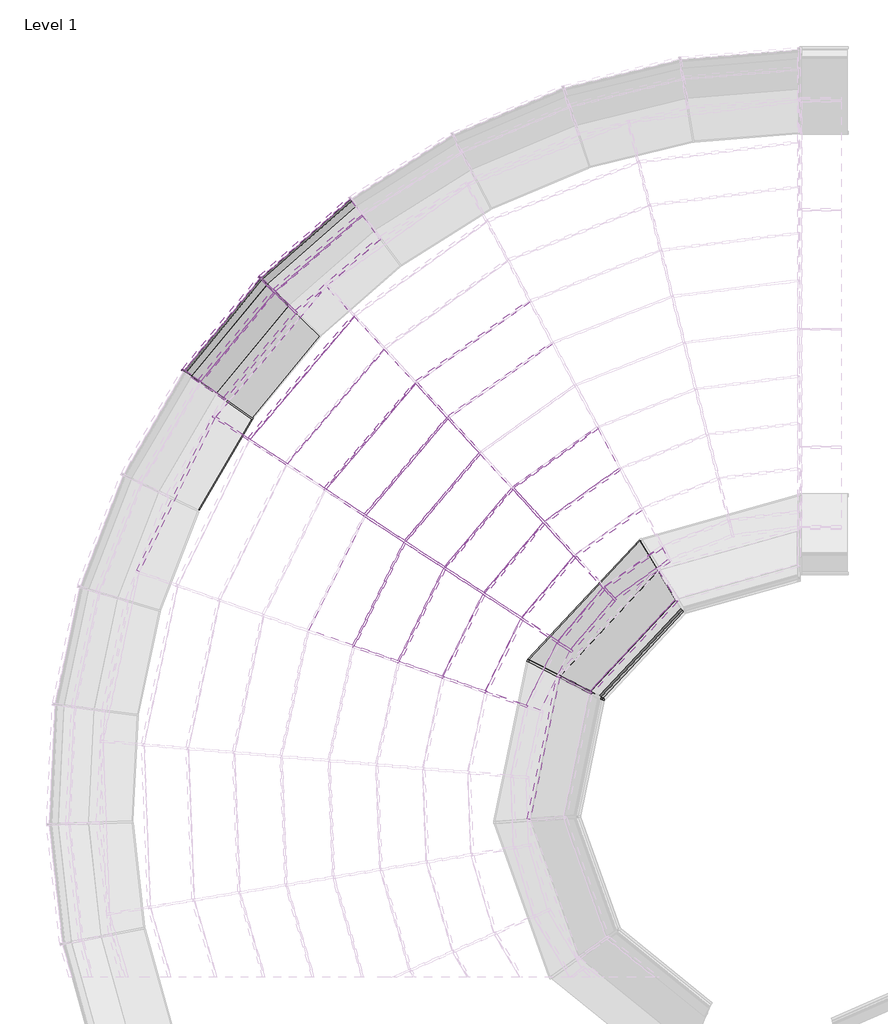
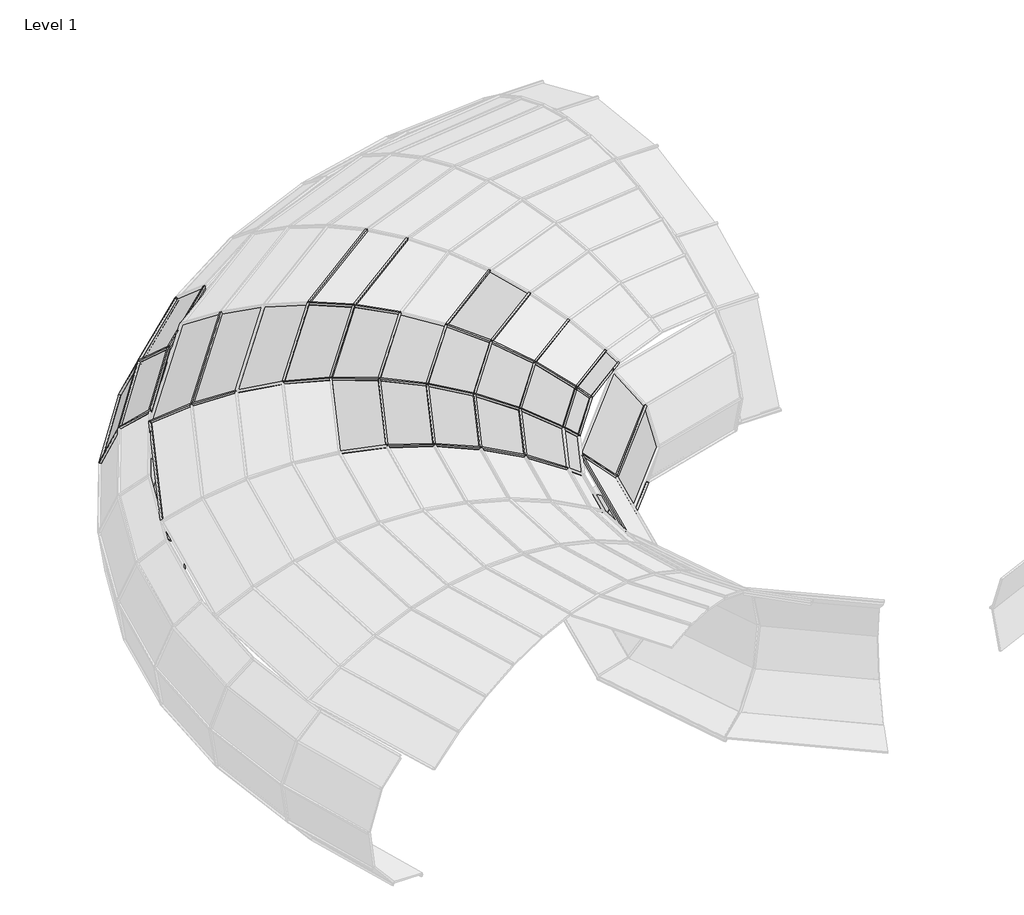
# One storey, part 14 of 23: 69 members, 30 plates.
"""IFC4 building model written with IfcOpenShell, lengths in millimetres."""

from ifc_helpers import new_model, si_unit, origin, place, context, project, spatial, transform, mapped, element, save
from components import member_6c4aaba8, member_c876edb5, member_782630c7, member_398e5ff5, member_0ea93e7c, member_01d9c279, member_398607d0, member_5ccaa950, member_8174f0e4, member_af15374c, member_9c203333, member_86c07ba8, member_0e8a41c0, member_f532ae18, member_ff5bcfe9, member_5080b2ef, member_18f2ae55, member_cb0bb3a9, member_172ab1ab, member_54499f2f, member_c8b9029b, member_d6b8231b, member_8c9da58c, member_391bee44, member_01ebdf2a, member_0cd36c09, member_d0a40a1c, member_ff9adfd2, member_e4cc2466, system_panel_glazed_dfe8d515, system_panel_glazed_f0cf6c0b, system_panel_glazed_2b57bb89, system_panel_glazed_39caee5c, system_panel_glazed_2fe36e08, system_panel_glazed_8ac96967, system_panel_glazed_5e26bc8e, system_panel_glazed_f7be4813, system_panel_glazed_5b1ce257, system_panel_glazed_7bf4cd1b, system_panel_glazed_9f229a92, system_panel_glazed_a07c5774, system_panel_glazed_4fd85c75, system_panel_glazed_1256fb3b, system_panel_glazed_de823024, system_panel_glazed_b0e446d2, system_panel_glazed_ac948568, system_panel_glazed_4c871569, system_panel_glazed_08c7efc5

model = new_model("IFC4")

# Units and contexts
model_context = context("Model", 3, world=origin())
ifc_project = project(units=[si_unit("LENGTHUNIT", "METRE", prefix="MILLI")], contexts=[model_context])

# Site, building, storey
site = spatial("IfcSite", under=ifc_project)
building = spatial("IfcBuilding", under=site)
storey = spatial("IfcBuildingStorey", under=building, Name="Level 1", Elevation=0.0)

# Members
placement = place(None, origin())
member_shape = member_6c4aaba8(model_context)
element("IfcMember", 1, ObjectType="Rectangular Mullion : 1\" Square", at=placement, inside=storey, context=model_context, shape_type="MappedRepresentation", body=[
    mapped(member_shape, transform((-16890.4368284, 3246.325838, 2378.3537392), x_axis=(0.690050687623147, -0.5864173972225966, 0.42419887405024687), y_axis=(-0.3232428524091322, 0.27469754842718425, 0.9055690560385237), z_axis=(-0.6475678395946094, -0.7620078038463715, 0.0))),
])
member_2_shape = member_c876edb5(model_context)
element("IfcMember", 2, ObjectType="Rectangular Mullion : 1\" Square", at=placement, inside=storey, context=model_context, shape_type="MappedRepresentation", body=[
    mapped(member_2_shape, transform((-13138.4925219, 2186.2335311, 2676.0506073), x_axis=(0.5585933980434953, -0.7843279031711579, -0.26982059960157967), y_axis=(0.15652543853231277, -0.2197793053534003, 0.962910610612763), z_axis=(-0.8145386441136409, -0.5801092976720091, 0.0))),
])
element("IfcMember", 3, ObjectType="Rectangular Mullion : 1\" Square", at=placement, inside=storey, context=model_context, shape_type="MappedRepresentation", body=[
    mapped(member_2_shape, transform((-13905.7304139, 1288.212641, 2676.0506073), x_axis=(0.7337453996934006, -0.6235499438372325, -0.2698205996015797), y_axis=(0.20560540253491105, -0.17472714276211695, 0.962910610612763), z_axis=(-0.6475678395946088, -0.762007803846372, 0.0))),
])
element("IfcMember", 4, ObjectType="Rectangular Mullion : 1\" Square", at=placement, inside=storey, context=model_context, shape_type="MappedRepresentation", body=[
    mapped(member_2_shape, transform((-14429.5431919, 229.5740456, 2676.0506073), x_axis=(0.8641636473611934, -0.42475644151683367, -0.2698205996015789), y_axis=(0.24215036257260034, -0.11902250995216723, 0.9629106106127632), z_axis=(-0.44111720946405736, -0.8974495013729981, 0.0))),
])
member_3_shape = member_782630c7(model_context)
element("IfcMember", 5, ObjectType="Rectangular Mullion : 1\" Square", at=placement, inside=storey, context=model_context, shape_type="MappedRepresentation", body=[
    mapped(member_3_shape, transform((-12749.1102639, 1762.0393058, 2475.91846), x_axis=(0.5361352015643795, -0.7527940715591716, -0.3819163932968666), y_axis=(0.22155325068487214, -0.3110856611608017, 0.924196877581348), z_axis=(-0.8145386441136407, -0.5801092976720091, 0.0))),
])
element("IfcMember", 6, ObjectType="Rectangular Mullion : 1\" Square", at=placement, inside=storey, context=model_context, shape_type="MappedRepresentation", body=[
    mapped(member_3_shape, transform((-13424.2797031, 972.357458, 2475.91846), x_axis=(0.7042452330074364, -0.5984801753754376, -0.3819163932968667), y_axis=(0.2910232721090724, -0.24731677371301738, 0.9241968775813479), z_axis=(-0.64756783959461, -0.7620078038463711, 0.0))),
])
element("IfcMember", 7, ObjectType="Rectangular Mullion : 1\" Square", at=placement, inside=storey, context=model_context, shape_type="MappedRepresentation", body=[
    mapped(member_3_shape, transform((-13885.3763044, 41.3144319, 2475.91846), x_axis=(0.829420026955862, -0.40767914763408, -0.38191639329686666), y_axis=(0.3427506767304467, -0.1684698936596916, 0.9241968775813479), z_axis=(-0.44111720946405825, -0.8974495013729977, 0.0))),
])
member_4_shape = member_398e5ff5(model_context)
element("IfcMember", 8, ObjectType="Rectangular Mullion : 1\" Square", at=placement, inside=storey, context=model_context, shape_type="MappedRepresentation", body=[
    mapped(member_4_shape, transform((-12378.6110611, 1358.4163388, 2208.6526723), x_axis=(0.5060932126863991, -0.7106117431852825, -0.4887746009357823), y_axis=(0.283542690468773, -0.39812580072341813, 0.8724101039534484), z_axis=(-0.8145386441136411, -0.5801092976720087, 0.0))),
])
element("IfcMember", 9, ObjectType="Rectangular Mullion : 1\" Square", at=placement, inside=storey, context=model_context, shape_type="MappedRepresentation", body=[
    mapped(member_4_shape, transform((-12966.1768982, 671.8196418, 2208.6526723), x_axis=(0.664783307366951, -0.5649447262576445, -0.4887746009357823), y_axis=(0.3724500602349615, -0.31651471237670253, 0.8724101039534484), z_axis=(-0.6475678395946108, -0.7620078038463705, 0.0))),
])
member_5_shape = member_0ea93e7c(model_context)
element("IfcMember", 10, ObjectType="Rectangular Mullion : 1\" Square", at=placement, inside=storey, context=model_context, shape_type="MappedRepresentation", body=[
    mapped(member_5_shape, transform((-14771.7057363, 3965.4610123, 2763.3769688), x_axis=(0.5684549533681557, -0.7981746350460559, 0.1994397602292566), y_axis=(-0.11569685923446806, 0.16245139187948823, 0.97991008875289), z_axis=(-0.8145386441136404, -0.5801092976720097, 0.0))),
])
element("IfcMember", 11, ObjectType="Rectangular Mullion : 1\" Square", at=placement, inside=storey, context=model_context, shape_type="MappedRepresentation", body=[
    mapped(member_5_shape, transform((-15925.1127737, 2613.0261065, 2763.3769688), x_axis=(0.7466991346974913, -0.634558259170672, 0.19943976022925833), y_axis=(-0.15197465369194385, 0.129150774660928, 0.9799100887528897), z_axis=(-0.6475678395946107, -0.7620078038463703, 0.0))),
])
member_6_shape = member_01d9c279(model_context)
element("IfcMember", 12, ObjectType="Rectangular Mullion : 1\" Square", at=placement, inside=storey, context=model_context, shape_type="MappedRepresentation", body=[
    mapped(member_6_shape, transform((-14363.675233, 3520.9513315, 2850.17796), x_axis=(0.5781463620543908, -0.8117824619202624, 0.08219500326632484), y_axis=(-0.04768208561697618, 0.06695100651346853, 0.9966162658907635), z_axis=(-0.8145386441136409, -0.5801092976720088, 0.0))),
])
element("IfcMember", 13, ObjectType="Rectangular Mullion : 1\" Square", at=placement, inside=storey, context=model_context, shape_type="MappedRepresentation", body=[
    mapped(member_6_shape, transform((-15420.604487, 2282.0440275, 2850.17796), x_axis=(0.7594293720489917, -0.6453766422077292, 0.08219500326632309), y_axis=(-0.06263323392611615, 0.053226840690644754, 0.9966162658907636), z_axis=(-0.64756783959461, -0.762007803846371, 0.0))),
])
member_7_shape = member_398607d0(model_context)
element("IfcMember", 14, ObjectType="Rectangular Mullion : 1\" Square", at=placement, inside=storey, context=model_context, shape_type="MappedRepresentation", body=[
    mapped(member_7_shape, transform((-14911.0437587, 1947.7473001, 2864.5209769), x_axis=(0.7615092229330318, -0.6471441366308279, -0.03616863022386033), y_axis=(0.027560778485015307, -0.02342164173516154, 0.9993457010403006), z_axis=(-0.6475678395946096, -0.7620078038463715, 0.0))),
])
element("IfcMember", 15, ObjectType="Rectangular Mullion : 1\" Square", at=placement, inside=storey, context=model_context, shape_type="MappedRepresentation", body=[
    mapped(member_7_shape, transform((-15565.8136791, 622.6774261, 2864.5209769), x_axis=(0.8968623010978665, -0.44082858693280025, -0.03616863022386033), y_axis=(0.0324595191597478, -0.015954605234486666, 0.9993457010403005), z_axis=(-0.44111720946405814, -0.8974495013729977, 0.0))),
])
member_8_shape = member_5ccaa950(model_context)
element("IfcMember", 16, ObjectType="Rectangular Mullion : 1\" Square", at=placement, inside=storey, context=model_context, shape_type="MappedRepresentation", body=[
    mapped(member_8_shape, transform((-13541.21836, 2624.9642934, 2806.2019711), x_axis=(0.5731852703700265, -0.8048165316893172, -0.15404218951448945), y_axis=(0.089361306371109, -0.12547331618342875, 0.9880642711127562), z_axis=(-0.8145386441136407, -0.580109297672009, 0.0))),
])
element("IfcMember", 17, ObjectType="Rectangular Mullion : 1\" Square", at=placement, inside=storey, context=model_context, shape_type="MappedRepresentation", body=[
    mapped(member_8_shape, transform((-14403.6797608, 1614.891735, 2806.2019711), x_axis=(0.7529126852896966, -0.639838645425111, -0.15404218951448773), y_axis=(0.11738135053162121, -0.09975276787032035, 0.9880642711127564), z_axis=(-0.6475678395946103, -0.7620078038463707, 0.0))),
])
element("IfcMember", 18, ObjectType="Rectangular Mullion : 1\" Square", at=placement, inside=storey, context=model_context, shape_type="MappedRepresentation", body=[
    mapped(member_8_shape, transform((-14992.3579102, 424.2850505, 2806.2019711), x_axis=(0.8867377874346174, -0.4358521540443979, -0.1540421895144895), y_axis=(0.13824508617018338, -0.06795066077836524, 0.9880642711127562), z_axis=(-0.44111720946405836, -0.8974495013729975, 0.0))),
])
member_9_shape = member_8174f0e4(model_context)
element("IfcMember", 19, ObjectType="Rectangular Mullion : 1\" Square", at=placement, inside=storey, context=model_context, shape_type="MappedRepresentation", body=[
    mapped(member_9_shape, transform((-12238.8698585, 1206.1818444, 2085.6089632), x_axis=(0.49743525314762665, -0.6984549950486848, -0.5145082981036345), y_axis=(0.29847104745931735, -0.41908689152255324, 0.857485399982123), z_axis=(-0.8145386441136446, -0.5801092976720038, 0.0))),
])
element("IfcMember", 20, ObjectType="Rectangular Mullion : 1\" Square", at=placement, inside=storey, context=model_context, shape_type="MappedRepresentation", body=[
    mapped(member_9_shape, transform((-12793.3942407, 558.4657789, 2085.6089632), x_axis=(0.653410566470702, -0.5552799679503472, -0.514508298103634), y_axis=(0.39205933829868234, -0.3331790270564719, 0.8574853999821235), z_axis=(-0.6475678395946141, -0.7620078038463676, 0.0))),
])
member_10_shape = member_af15374c(model_context)
element("IfcMember", 21, ObjectType="Rectangular Mullion : 1\" Square", at=placement, inside=storey, context=model_context, shape_type="MappedRepresentation", body=[
    mapped(member_10_shape, transform((-17351.3458913, 3518.5588606, 2085.6089632), x_axis=(-0.7857928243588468, 0.3862353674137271, -0.4830650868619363), y_axis=(-0.43352652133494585, 0.21308832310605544, 0.875584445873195), z_axis=(0.4411172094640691, 0.8974495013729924, 0.0))),
])
member_11_shape = member_9c203333(model_context)
element("IfcMember", 22, ObjectType="Rectangular Mullion : 1\" Square", at=placement, inside=storey, context=model_context, shape_type="MappedRepresentation", body=[
    mapped(member_11_shape, transform((-16854.170886, 3485.1991614, 0.0), x_axis=(0.8282658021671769, -0.48470889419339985, -0.2811281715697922), y_axis=(-0.24263423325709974, 0.1419918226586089, -0.9596702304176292), z_axis=(0.5050785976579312, 0.8630733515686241, 0.0))),
])
member_12_shape = member_86c07ba8(model_context)
element("IfcMember", 23, ObjectType="Rectangular Mullion : 1\" Square", at=placement, inside=storey, context=model_context, shape_type="MappedRepresentation", body=[
    mapped(member_12_shape, transform((-16397.1314043, 4956.0285349, 170.8694653), x_axis=(-0.5571284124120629, 0.634044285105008, 0.5362795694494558), y_axis=(-0.35398374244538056, 0.40285392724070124, -0.8440404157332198), z_axis=(-0.7512013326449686, -0.6600731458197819, 0.0))),
])
element("IfcMember", 24, ObjectType="Rectangular Mullion : 1\" Square", at=placement, inside=storey, context=model_context, shape_type="MappedRepresentation", body=[
    mapped(member_12_shape, transform((-17319.4457462, 3840.9745394, 170.8694653), x_axis=(-0.6511365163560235, 0.5370525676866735, 0.5362795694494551), y_axis=(-0.41371385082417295, 0.34122811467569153, -0.8440404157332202), z_axis=(-0.6362877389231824, -0.7714518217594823, 0.0))),
])
member_13_shape = member_0e8a41c0(model_context)
element("IfcMember", 25, ObjectType="Rectangular Mullion : 1\" Square", at=placement, inside=storey, context=model_context, shape_type="MappedRepresentation", body=[
    mapped(member_13_shape, transform((-16685.2660922, 5235.2997594, 629.7792003), x_axis=(-0.2787345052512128, 0.31721595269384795, 0.9064662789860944), y_axis=(-0.598334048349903, 0.6809386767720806, -0.4222782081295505), z_axis=(-0.7512013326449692, -0.6600731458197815, 0.0))),
])
element("IfcMember", 26, ObjectType="Rectangular Mullion : 1\" Square", at=placement, inside=storey, context=model_context, shape_type="MappedRepresentation", body=[
    mapped(member_13_shape, transform((-17648.4399386, 4070.7066366, 629.7792003), x_axis=(-0.32576729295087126, 0.2686904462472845, 0.9064662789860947), y_axis=(-0.6992950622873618, 0.5767733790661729, -0.4222782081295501), z_axis=(-0.6362877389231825, -0.7714518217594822, 0.0))),
])
member_14_shape = member_f532ae18(model_context)
element("IfcMember", 27, ObjectType="Rectangular Mullion : 1\" Square", at=placement, inside=storey, context=model_context, shape_type="MappedRepresentation", body=[
    mapped(member_14_shape, transform((-16750.7991511, 5298.8169213, 1232.5089476), x_axis=(0.08842369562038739, -0.10063126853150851, 0.9909866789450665), y_axis=(-0.6541236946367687, 0.7444305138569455, 0.1339604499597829), z_axis=(-0.7512013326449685, -0.6600731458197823, 0.0))),
])
element("IfcMember", 28, ObjectType="Rectangular Mullion : 1\" Square", at=placement, inside=storey, context=model_context, shape_type="MappedRepresentation", body=[
    mapped(member_14_shape, transform((-17723.2660415, 4122.9566701, 1232.5089476), x_axis=(0.10334403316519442, -0.08523739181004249, 0.9909866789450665), y_axis=(-0.7644984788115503, 0.6305526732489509, 0.13396044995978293), z_axis=(-0.6362877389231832, -0.7714518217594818, 0.0))),
])
member_15_shape = member_ff5bcfe9(model_context)
element("IfcMember", 29, ObjectType="Rectangular Mullion : 1\" Square", at=placement, inside=storey, context=model_context, shape_type="MappedRepresentation", body=[
    mapped(member_15_shape, transform((-16573.1356931, 5126.6186628, 1789.6405438), x_axis=(0.4273307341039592, -0.48632703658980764, 0.762151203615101), y_axis=(-0.5030755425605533, 0.5725289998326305, 0.6473990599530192), z_axis=(-0.7512013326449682, -0.6600731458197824, 0.0))),
])
element("IfcMember", 30, ObjectType="Rectangular Mullion : 1\" Square", at=placement, inside=storey, context=model_context, shape_type="MappedRepresentation", body=[
    mapped(member_15_shape, transform((-17520.4086683, 3981.3041702, 1789.6405438), x_axis=(0.4994371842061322, -0.4119320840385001, 0.7621512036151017), y_axis=(-0.5879629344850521, 0.4849474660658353, 0.6473990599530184), z_axis=(-0.6362877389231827, -0.771451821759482, 0.0))),
])
member_16_shape = member_5080b2ef(model_context)
element("IfcMember", 31, ObjectType="Rectangular Mullion : 1\" Square", at=placement, inside=storey, context=model_context, shape_type="MappedRepresentation", body=[
    mapped(member_16_shape, transform((-16286.699342, 4848.9935317, 2085.6089632), x_axis=(0.5294916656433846, -0.6025920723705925, 0.5970941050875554), y_axis=(-0.394125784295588, 0.4485378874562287, 0.8021711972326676), z_axis=(-0.751201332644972, -0.6600731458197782, 0.0))),
])
element("IfcMember", 32, ObjectType="Rectangular Mullion : 1\" Square", at=placement, inside=storey, context=model_context, shape_type="MappedRepresentation", body=[
    mapped(member_16_shape, transform((-17193.3536487, 3752.9261705, 2085.6089632), x_axis=(0.6188364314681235, -0.5104116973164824, 0.5970941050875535), y_axis=(-0.4606293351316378, 0.3799236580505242, 0.8021711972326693), z_axis=(-0.6362877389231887, -0.7714518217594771, 0.0))),
])
member_17_shape = member_18f2ae55(model_context)
element("IfcMember", 33, ObjectType="Rectangular Mullion : 1\" Square", at=placement, inside=storey, context=model_context, shape_type="MappedRepresentation", body=[
    mapped(member_17_shape, transform((-12556.6843912, 33.2902731, 1696.6281859), x_axis=(0.4190608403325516, -0.39066910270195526, -0.8196131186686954), y_axis=(0.5995066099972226, -0.558889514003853, 0.5729173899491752), z_axis=(-0.6818943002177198, -0.7314507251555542, 0.0))),
])
member_18_shape = member_cb0bb3a9(model_context)
element("IfcMember", 34, ObjectType="Rectangular Mullion : 1\" Square", at=placement, inside=storey, context=model_context, shape_type="MappedRepresentation", body=[
    mapped(member_18_shape, transform((-12927.3046486, 224.7657121, 113.4427618), x_axis=(-0.658929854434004, 0.6142867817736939, -0.43412348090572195), y_axis=(0.3175399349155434, -0.29602632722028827, -0.9008533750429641), z_axis=(-0.6818943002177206, -0.7314507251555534, 0.0))),
])
member_19_shape = member_172ab1ab(model_context)
element("IfcMember", 35, ObjectType="Rectangular Mullion : 1\" Square", at=placement, inside=storey, context=model_context, shape_type="MappedRepresentation", body=[
    mapped(member_19_shape, transform((-13356.9351081, 446.7278935, 0.0), x_axis=(-0.7106614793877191, 0.6625135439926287, -0.23671938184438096), y_axis=(0.17314856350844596, -0.1614175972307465, -0.9715780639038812), z_axis=(-0.6818943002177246, -0.7314507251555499, 0.0))),
])
member_20_shape = member_54499f2f(model_context)
element("IfcMember", 36, ObjectType="Rectangular Mullion : 1\" Square", at=placement, inside=storey, context=model_context, shape_type="MappedRepresentation", body=[
    mapped(member_20_shape, transform((-12529.1689958, 19.0748536, 526.7119632), x_axis=(-0.3863430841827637, 0.3601680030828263, -0.8491278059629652), y_axis=(0.6210951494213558, -0.579015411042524, -0.5281874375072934), z_axis=(-0.6818943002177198, -0.7314507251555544, 0.0))),
])
member_21_shape = member_c8b9029b(model_context)
element("IfcMember", 37, ObjectType="Rectangular Mullion : 1\" Square", at=placement, inside=storey, context=model_context, shape_type="MappedRepresentation", body=[
    mapped(member_21_shape, transform((-12984.9135257, 227.0014528, 2085.6089632), x_axis=(-0.742293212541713, 0.15308770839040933, 0.6523533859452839), y_axis=(0.6389074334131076, -0.13176582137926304, 0.7579149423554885), z_axis=(0.20198534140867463, 0.9793885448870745, 0.0))),
])
member_22_shape = member_d6b8231b(model_context)
element("IfcMember", 38, ObjectType="Rectangular Mullion : 1\" Square", at=placement, inside=storey, context=model_context, shape_type="MappedRepresentation", body=[
    mapped(member_22_shape, transform((-16847.7563878, 3496.1601929, 0.0), x_axis=(-0.5725189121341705, -0.8198915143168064, 0.0), y_axis=(-0.2298136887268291, 0.16047572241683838, -0.9599131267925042), z_axis=(0.7870246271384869, -0.5495684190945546, -0.28029767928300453))),
])
member_23_shape = member_8c9da58c(model_context)
element("IfcMember", 39, ObjectType="Rectangular Mullion : 1\" Square", at=placement, inside=storey, context=model_context, shape_type="MappedRepresentation", body=[
    mapped(member_23_shape, transform((-16406.6716612, 4947.645606, 170.8694653), x_axis=(-0.6959761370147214, -0.7180649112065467, 0.0), y_axis=(-0.540562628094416, 0.5239340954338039, -0.6582439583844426), z_axis=(0.47266188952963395, -0.45812208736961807, -0.7528046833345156))),
])
element("IfcMember", 40, ObjectType="Rectangular Mullion : 1\" Square", at=placement, inside=storey, context=model_context, shape_type="MappedRepresentation", body=[
    mapped(member_23_shape, transform((-16694.8063491, 5226.9168304, 629.7792003), x_axis=(-0.6959761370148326, -0.7180649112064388, 0.0), y_axis=(-0.7099722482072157, 0.688132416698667, -0.1497103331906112), z_axis=(0.10750173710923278, -0.10419481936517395, -0.9887299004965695))),
])
element("IfcMember", 41, ObjectType="Rectangular Mullion : 1\" Square", at=placement, inside=storey, context=model_context, shape_type="MappedRepresentation", body=[
    mapped(member_23_shape, transform((-17327.5266005, 3831.1771012, 170.8694653), x_axis=(-0.572518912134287, -0.8198915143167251, 0.0), y_axis=(-0.617218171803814, 0.4309949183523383, -0.6582439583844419), z_axis=(0.5396886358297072, -0.37685711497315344, -0.7528046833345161))),
])
element("IfcMember", 42, ObjectType="Rectangular Mullion : 1\" Square", at=placement, inside=storey, context=model_context, shape_type="MappedRepresentation", body=[
    mapped(member_23_shape, transform((-17656.5207929, 4060.9091985, 629.7792003), x_axis=(-0.5725189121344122, -0.8198915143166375, 0.0), y_axis=(-0.8106512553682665, 0.566066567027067, -0.1497103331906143), z_axis=(0.12274623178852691, -0.08571199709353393, -0.9887299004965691))),
])
member_24_shape = member_391bee44(model_context)
element("IfcMember", 43, ObjectType="Rectangular Mullion : 1\" Square", at=placement, inside=storey, context=model_context, shape_type="MappedRepresentation", body=[
    mapped(member_24_shape, transform((-16760.339408, 5290.4339923, 1232.5089476), x_axis=(-0.6959761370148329, -0.7180649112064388, 0.0), y_axis=(-0.6562609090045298, 0.6360733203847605, 0.40587233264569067), z_axis=(-0.2914426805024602, 0.2824774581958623, -0.9139297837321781))),
])
element("IfcMember", 44, ObjectType="Rectangular Mullion : 1\" Square", at=placement, inside=storey, context=model_context, shape_type="MappedRepresentation", body=[
    mapped(member_24_shape, transform((-17731.3468958, 4113.1592319, 1232.5089476), x_axis=(-0.5725189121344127, -0.8198915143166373, 0.0), y_axis=(-0.749323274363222, 0.5232420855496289, 0.4058723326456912), z_axis=(-0.3327712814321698, 0.23236958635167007, -0.9139297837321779))),
])
member_25_shape = member_01ebdf2a(model_context)
element("IfcMember", 45, ObjectType="Rectangular Mullion : 1\" Square", at=placement, inside=storey, context=model_context, shape_type="MappedRepresentation", body=[
    mapped(member_25_shape, transform((-16582.67595, 5118.2357338, 1789.6405438), x_axis=(-0.6959761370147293, -0.718064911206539, 0.0), y_axis=(-0.4278661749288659, 0.4147043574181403, 0.8030883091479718), z_axis=(-0.5766695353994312, 0.5589302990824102, -0.5958600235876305))),
])
element("IfcMember", 46, ObjectType="Rectangular Mullion : 1\" Square", at=placement, inside=storey, context=model_context, shape_type="MappedRepresentation", body=[
    mapped(member_25_shape, transform((-17528.4895226, 3971.5067321, 1789.6405438), x_axis=(-0.572518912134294, -0.8198915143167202, 0.0), y_axis=(-0.48854057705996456, 0.3411411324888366, 0.8030883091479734), z_axis=(-0.6584452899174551, 0.45978324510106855, -0.5958600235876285))),
])
member_26_shape = member_0cd36c09(model_context)
element("IfcMember", 47, ObjectType="Rectangular Mullion : 1\" Square", at=placement, inside=storey, context=model_context, shape_type="MappedRepresentation", body=[
    mapped(member_26_shape, transform((-14782.0503771, 3958.0936242, 2763.3769688), x_axis=(-0.7366889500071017, -0.6762317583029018, 0.0), y_axis=(-0.09628869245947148, 0.10489719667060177, 0.9898106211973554), z_axis=(-0.6693413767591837, 0.7291825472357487, -0.1423900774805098))),
])
element("IfcMember", 48, ObjectType="Rectangular Mullion : 1\" Square", at=placement, inside=storey, context=model_context, shape_type="MappedRepresentation", body=[
    mapped(member_26_shape, transform((-14374.0198738, 3513.5839434, 2850.17796), x_axis=(-0.7366889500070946, -0.6762317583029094, 0.0), y_axis=(-0.01591076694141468, 0.01733323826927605, 0.9997231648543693), z_axis=(-0.6760445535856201, 0.7364850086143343, -0.023528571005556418))),
])
element("IfcMember", 49, ObjectType="Rectangular Mullion : 1\" Square", at=placement, inside=storey, context=model_context, shape_type="MappedRepresentation", body=[
    mapped(member_26_shape, transform((-16898.66094, 3236.6483389, 2378.3537392), x_axis=(-0.5485388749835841, -0.8361250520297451, 0.0), y_axis=(-0.3113511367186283, 0.20426155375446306, 0.9280828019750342), z_axis=(-0.7759932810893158, 0.509089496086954, -0.37237388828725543))),
])
element("IfcMember", 50, ObjectType="Rectangular Mullion : 1\" Square", at=placement, inside=storey, context=model_context, shape_type="MappedRepresentation", body=[
    mapped(member_26_shape, transform((-15933.3368853, 2603.3486074, 2763.3769688), x_axis=(-0.5485388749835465, -0.8361250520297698, 0.0), y_axis=(-0.11905591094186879, 0.07810649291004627, 0.9898106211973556), z_axis=(-0.8276054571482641, 0.5429496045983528, -0.1423900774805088))),
])
element("IfcMember", 51, ObjectType="Rectangular Mullion : 1\" Square", at=placement, inside=storey, context=model_context, shape_type="MappedRepresentation", body=[
    mapped(member_26_shape, transform((-15428.8285986, 2272.3665284, 2850.17796), x_axis=(-0.5485388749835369, -0.8361250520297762, 0.0), y_axis=(-0.019672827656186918, 0.012906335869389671, 0.9997231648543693), z_axis=(-0.8358935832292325, 0.548387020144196, -0.023528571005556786))),
])
element("IfcMember", 52, ObjectType="Rectangular Mullion : 1\" Square", at=placement, inside=storey, context=model_context, shape_type="MappedRepresentation", body=[
    mapped(member_26_shape, transform((-13551.5630008, 2617.5969053, 2806.2019711), x_axis=(-0.7366889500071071, -0.6762317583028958, 0.0), y_axis=(0.14437743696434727, -0.15728522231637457, 0.9769424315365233), z_axis=(-0.6606394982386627, 0.7197026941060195, 0.2135028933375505))),
])
element("IfcMember", 53, ObjectType="Rectangular Mullion : 1\" Square", at=placement, inside=storey, context=model_context, shape_type="MappedRepresentation", body=[
    mapped(member_26_shape, transform((-13148.8371627, 2178.866143, 2676.0506073), x_axis=(-0.7366889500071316, -0.676231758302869, 0.0), y_axis=(0.22200740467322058, -0.24185554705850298, 0.9445732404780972), z_axis=(-0.6387504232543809, 0.6958566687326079, 0.3283007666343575))),
])
element("IfcMember", 54, ObjectType="Rectangular Mullion : 1\" Square", at=placement, inside=storey, context=model_context, shape_type="MappedRepresentation", body=[
    mapped(member_26_shape, transform((-14919.2678703, 1938.069801, 2864.5209769), x_axis=(-0.5485388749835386, -0.8361250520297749, 0.0), y_axis=(0.07999012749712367, -0.05247743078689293, 0.9954133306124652), z_axis=(-0.83229002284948, 0.5460229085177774, 0.09566766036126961))),
])
element("IfcMember", 55, ObjectType="Rectangular Mullion : 1\" Square", at=placement, inside=storey, context=model_context, shape_type="MappedRepresentation", body=[
    mapped(member_26_shape, transform((-14411.9038723, 1605.2142359, 2806.2019711), x_axis=(-0.5485388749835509, -0.8361250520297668, 0.0), y_axis=(0.17851511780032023, -0.11711463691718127, 0.9769424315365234), z_axis=(-0.8168460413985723, 0.5358909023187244, 0.21350289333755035))),
])
element("IfcMember", 56, ObjectType="Rectangular Mullion : 1\" Square", at=placement, inside=storey, context=model_context, shape_type="MappedRepresentation", body=[
    mapped(member_26_shape, transform((-13913.9545255, 1278.5351419, 2676.0506073), x_axis=(-0.5485388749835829, -0.8361250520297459, 0.0), y_axis=(0.2745004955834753, -0.18008573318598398, 0.9445732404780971), z_axis=(-0.7897813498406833, 0.518135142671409, 0.32830076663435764))),
])
element("IfcMember", 57, ObjectType="Rectangular Mullion : 1\" Square", at=placement, inside=storey, context=model_context, shape_type="MappedRepresentation", body=[
    mapped(member_26_shape, transform((-15571.4158676, 611.2798175, 2864.5209769), x_axis=(-0.32694640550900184, -0.9450428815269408, 0.0), y_axis=(0.09041004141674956, -0.03127819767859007, 0.9954133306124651), z_axis=(-0.9407082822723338, 0.3254468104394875, 0.09566766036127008))),
])
element("IfcMember", 58, ObjectType="Rectangular Mullion : 1\" Square", at=placement, inside=storey, context=model_context, shape_type="MappedRepresentation", body=[
    mapped(member_26_shape, transform((-14997.9600987, 412.8874418, 2806.2019711), x_axis=(-0.32694640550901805, -0.9450428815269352, 0.0), y_axis=(0.20176938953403, -0.06980400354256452, 0.9769424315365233), z_axis=(-0.9232524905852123, 0.31940781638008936, 0.21350289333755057))),
])
element("IfcMember", 59, ObjectType="Rectangular Mullion : 1\" Square", at=placement, inside=storey, context=model_context, shape_type="MappedRepresentation", body=[
    mapped(member_26_shape, transform((-14435.1453805, 218.176437, 2676.0506073), x_axis=(-0.32694640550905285, -0.9450428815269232, 0.0), y_axis=(0.31025830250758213, -0.10733675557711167, 0.9445732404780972), z_axis=(-0.8926622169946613, 0.30882482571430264, 0.3283007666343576))),
])
member_27_shape = member_d0a40a1c(model_context)
element("IfcMember", 60, ObjectType="Rectangular Mullion : 1\" Square", at=placement, inside=storey, context=model_context, shape_type="MappedRepresentation", body=[
    mapped(member_27_shape, transform((-12759.4549047, 1754.6719177, 2475.91846), x_axis=(-0.7366889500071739, -0.676231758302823, 0.0), y_axis=(0.29647902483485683, -0.3229851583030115, 0.8987662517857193), z_axis=(-0.6077742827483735, 0.6621111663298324, 0.43842812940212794))),
])
element("IfcMember", 61, ObjectType="Rectangular Mullion : 1\" Square", at=placement, inside=storey, context=model_context, shape_type="MappedRepresentation", body=[
    mapped(member_27_shape, transform((-13432.5038146, 962.6799589, 2475.91846), x_axis=(-0.5485388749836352, -0.8361250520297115, 0.0), y_axis=(0.366580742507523, -0.2404948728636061, 0.8987662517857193), z_axis=(-0.7514809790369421, 0.4930082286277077, 0.43842812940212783))),
])
element("IfcMember", 62, ObjectType="Rectangular Mullion : 1\" Square", at=placement, inside=storey, context=model_context, shape_type="MappedRepresentation", body=[
    mapped(member_27_shape, transform((-13890.978493, 29.9168232, 2475.91846), x_axis=(-0.3269464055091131, -0.9450428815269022, 0.0), y_axis=(0.4143333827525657, -0.14334250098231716, 0.898766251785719), z_axis=(-0.8493726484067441, 0.2938483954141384, 0.43842812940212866))),
])
member_28_shape = member_ff9adfd2(model_context)
element("IfcMember", 63, ObjectType="Rectangular Mullion : 1\" Square", at=placement, inside=storey, context=model_context, shape_type="MappedRepresentation", body=[
    mapped(member_28_shape, transform((-12388.9557019, 1351.0489507, 2208.6526723), x_axis=(-0.7366889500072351, -0.6762317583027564, 0.0), y_axis=(0.3459638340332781, -0.3768940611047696, 0.8592205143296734), z_axis=(-0.5810321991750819, 0.6329782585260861, 0.5116054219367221))),
])
element("IfcMember", 64, ObjectType="Rectangular Mullion : 1\" Square", at=placement, inside=storey, context=model_context, shape_type="MappedRepresentation", body=[
    mapped(member_28_shape, transform((-12974.4010098, 662.1421427, 2208.6526723), x_axis=(-0.5485388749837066, -0.8361250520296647, 0.0), y_axis=(0.4277661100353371, -0.28063546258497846, 0.859220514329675), z_axis=(-0.7184157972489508, 0.4713158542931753, 0.5116054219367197))),
])
member_29_shape = member_e4cc2466(model_context)
element("IfcMember", 65, ObjectType="Rectangular Mullion : 1\" Square", at=placement, inside=storey, context=model_context, shape_type="MappedRepresentation", body=[
    mapped(member_29_shape, transform((-17345.7437028, 3529.9564693, 2085.6089632), x_axis=(-0.5485388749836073, -0.8361250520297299, 0.0), y_axis=(-0.40152762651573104, 0.26342173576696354, 0.8771456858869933), z_axis=(-0.7334034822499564, 0.48114850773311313, -0.48022437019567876))),
])
element("IfcMember", 66, ObjectType="Rectangular Mullion : 1\" Square", at=placement, inside=storey, context=model_context, shape_type="MappedRepresentation", body=[
    mapped(member_23_shape, transform((-12565.3444488, 24.0008489, 1696.6281859), x_axis=(-0.45899792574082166, -0.8884373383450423, 0.0), y_axis=(0.8459339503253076, -0.43703918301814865, 0.30560187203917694), z_axis=(-0.27150811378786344, 0.14027062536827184, 0.9521593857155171))),
])
element("IfcMember", 67, ObjectType="Rectangular Mullion : 1\" Square", at=placement, inside=storey, context=model_context, shape_type="MappedRepresentation", body=[
    mapped(member_24_shape, transform((-12537.8290534, 9.7854294, 526.7119632), x_axis=(-0.4589979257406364, -0.8884373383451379, 0.0), y_axis=(0.6023028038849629, -0.31117077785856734, -0.7351218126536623), z_axis=(0.6531096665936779, -0.33741938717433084, 0.677935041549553))),
])
element("IfcMember", 68, ObjectType="Rectangular Mullion : 1\" Square", at=placement, inside=storey, context=model_context, shape_type="MappedRepresentation", body=[
    mapped(member_25_shape, transform((-12935.9647062, 215.4762879, 113.4427618), x_axis=(-0.4589979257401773, -0.8884373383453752, 0.0), y_axis=(0.2029095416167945, -0.10483019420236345, -0.9735698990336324), z_axis=(0.8649558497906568, -0.4468665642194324, 0.22838925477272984))),
])
element("IfcMember", 69, ObjectType="Rectangular Mullion : 1\" Square", at=placement, inside=storey, context=model_context, shape_type="MappedRepresentation", body=[
    mapped(member_22_shape, transform((-12982.3483119, 239.4396873, 2085.6089632), x_axis=(-0.4589979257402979, -0.8884373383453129, 0.0), y_axis=(0.5669046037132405, -0.2928828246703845, 0.7699602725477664), z_axis=(-0.6840614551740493, 0.35341016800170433, 0.6380918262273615))),
])

# Plates
system_panel_glazed_shape = system_panel_glazed_dfe8d515(model_context)
element("IfcPlate", 70, ObjectType="System Panel : Glazed", at=placement, inside=storey, context=model_context, shape_type="MappedRepresentation", body=[
    mapped(system_panel_glazed_shape, transform((-16435.92612, 4033.7830533, 7.1406556), x_axis=(-0.6362877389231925, -0.7714518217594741, 0.0), y_axis=(0.21687684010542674, -0.17887840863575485, 0.959670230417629), z_axis=(-0.7403393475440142, 0.6106264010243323, 0.281128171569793))),
])
system_panel_glazed_2_shape = system_panel_glazed_f0cf6c0b(model_context)
element("IfcPlate", 71, ObjectType="System Panel : Glazed", at=placement, inside=storey, context=model_context, shape_type="MappedRepresentation", body=[
    mapped(system_panel_glazed_2_shape, transform((-16873.536492, 4394.7208413, 180.4433737), x_axis=(-0.6362877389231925, -0.7714518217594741, 0.0), y_axis=(0.5815597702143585, -0.4796661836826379, 0.6570453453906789), z_axis=(-0.5068788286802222, 0.41806989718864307, 0.7538510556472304))),
])
system_panel_glazed_3_shape = system_panel_glazed_2b57bb89(model_context)
element("IfcPlate", 72, ObjectType="System Panel : Glazed", at=placement, inside=storey, context=model_context, shape_type="MappedRepresentation", body=[
    mapped(system_panel_glazed_3_shape, transform((-16128.3573684, 5727.1730268, 642.3369711), x_axis=(-0.7512013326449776, -0.660073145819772, 0.0), y_axis=(0.6526808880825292, -0.7427885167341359, 0.14924100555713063), z_axis=(-0.0985099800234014, 0.11211004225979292, 0.9888008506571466))),
])
element("IfcPlate", 73, ObjectType="System Panel : Glazed", at=placement, inside=storey, context=model_context, shape_type="MappedRepresentation", body=[
    mapped(system_panel_glazed_3_shape, transform((-17177.1257505, 4645.1190093, 642.3369711), x_axis=(-0.6362877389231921, -0.7714518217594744, 0.0), y_axis=(0.7628122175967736, -0.6291618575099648, 0.14924100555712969), z_axis=(-0.11513224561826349, 0.09496022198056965, 0.9888008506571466))),
])
system_panel_glazed_4_shape = system_panel_glazed_39caee5c(model_context)
element("IfcPlate", 74, ObjectType="System Panel : Glazed", at=placement, inside=storey, context=model_context, shape_type="MappedRepresentation", body=[
    mapped(system_panel_glazed_4_shape, transform((-16183.7603873, 5790.2248596, 1244.1219817), x_axis=(-0.7512013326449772, -0.6600731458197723, 0.0), y_axis=(0.6035788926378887, -0.6869076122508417, -0.404784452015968), z_axis=(0.26718734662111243, -0.3040746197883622, 0.9144121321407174))),
])
element("IfcPlate", 75, ObjectType="System Panel : Glazed", at=placement, inside=storey, context=model_context, shape_type="MappedRepresentation", body=[
    mapped(system_panel_glazed_4_shape, transform((-17241.8773013, 4698.525608, 1244.1219817), x_axis=(-0.6362877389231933, -0.7714518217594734, 0.0), y_axis=(0.7054249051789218, -0.5818292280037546, -0.40478445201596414), z_axis=(0.3122717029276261, -0.25755938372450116, 0.914412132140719))),
])
system_panel_glazed_5_shape = system_panel_glazed_2fe36e08(model_context)
element("IfcPlate", 76, ObjectType="System Panel : Glazed", at=placement, inside=storey, context=model_context, shape_type="MappedRepresentation", body=[
    mapped(system_panel_glazed_5_shape, transform((-16017.637633, 5601.1675783, 1797.2236389), x_axis=(-0.7512013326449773, -0.6600731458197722, 0.0), y_axis=(0.3941257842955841, -0.448537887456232, -0.8021711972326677), z_axis=(0.5294916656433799, -0.6025920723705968, 0.5970941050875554))),
])
element("IfcPlate", 77, ObjectType="System Panel : Glazed", at=placement, inside=storey, context=model_context, shape_type="MappedRepresentation", body=[
    mapped(system_panel_glazed_5_shape, transform((-17047.7235136, 4538.3890044, 1797.2236389), x_axis=(-0.6362877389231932, -0.7714518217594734, 0.0), y_axis=(0.4606293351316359, -0.37992365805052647, -0.8021711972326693), z_axis=(0.6188364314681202, -0.5104116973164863, 0.5970941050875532))),
])
system_panel_glazed_6_shape = system_panel_glazed_8ac96967(model_context)
element("IfcPlate", 78, ObjectType="System Panel : Glazed", at=placement, inside=storey, context=model_context, shape_type="MappedRepresentation", body=[
    mapped(system_panel_glazed_6_shape, transform((-16618.1053063, 4351.8414657, 2097.8788164), x_axis=(-0.6475678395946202, -0.7620078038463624, 0.0), y_axis=(0.3680993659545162, -0.3128174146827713, -0.8755844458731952), z_axis=(0.6672021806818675, -0.5670003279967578, 0.483065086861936))),
])
system_panel_glazed_7_shape = system_panel_glazed_5e26bc8e(model_context)
element("IfcPlate", 79, ObjectType="System Panel : Glazed", at=placement, inside=storey, context=model_context, shape_type="MappedRepresentation", body=[
    mapped(system_panel_glazed_7_shape, transform((-16221.7456932, 4015.0079883, 2383.1142391), x_axis=(-0.6475678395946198, -0.7620078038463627, 0.0), y_axis=(0.28563291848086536, -0.2427359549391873, -0.9270885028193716), z_axis=(0.7064486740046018, -0.6003526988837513, 0.3748425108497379))),
])
system_panel_glazed_8_shape = system_panel_glazed_f7be4813(model_context)
element("IfcPlate", 80, ObjectType="System Panel : Glazed", at=placement, inside=storey, context=model_context, shape_type="MappedRepresentation", body=[
    mapped(system_panel_glazed_8_shape, transform((-15793.5608106, 3651.1288286, 2608.668686), x_axis=(-0.647567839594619, -0.7620078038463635, 0.0), y_axis=(0.19895150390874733, -0.1690725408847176, -0.9653148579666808), z_axis=(0.7355774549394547, -0.62510685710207, 0.26108853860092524))),
])
system_panel_glazed_9_shape = system_panel_glazed_5b1ce257(model_context)
element("IfcPlate", 81, ObjectType="System Panel : Glazed", at=placement, inside=storey, context=model_context, shape_type="MappedRepresentation", body=[
    mapped(system_panel_glazed_9_shape, transform((-15348.1162424, 3272.5820797, 2765.1989775), x_axis=(-0.6475678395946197, -0.7620078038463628, 0.0), y_axis=(0.10932164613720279, -0.09290348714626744, -0.9896553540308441), z_axis=(0.7541251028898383, -0.6408689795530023, 0.14346525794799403))),
])
system_panel_glazed_10_shape = system_panel_glazed_7bf4cd1b(model_context)
element("IfcPlate", 82, ObjectType="System Panel : Glazed", at=placement, inside=storey, context=model_context, shape_type="MappedRepresentation", body=[
    mapped(system_panel_glazed_10_shape, transform((-14891.7494576, 2884.7534363, 2850.4790751), x_axis=(-0.6475678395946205, -0.7620078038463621, 0.0), y_axis=(0.0180670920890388, -0.015353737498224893, -0.9997188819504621), z_axis=(0.7617935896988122, -0.6473857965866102, 0.023709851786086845))),
])
element("IfcPlate", 83, ObjectType="System Panel : Glazed", at=placement, inside=storey, context=model_context, shape_type="MappedRepresentation", body=[
    mapped(system_panel_glazed_10_shape, transform((-15776.6971567, 1535.8482361, 2850.4790751), x_axis=(-0.44111720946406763, -0.8974495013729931, 0.0), y_axis=(0.02127839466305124, -0.010458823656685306, -0.999718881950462), z_axis=(0.8971972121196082, -0.4409932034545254, 0.02370985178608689))),
])
system_panel_glazed_11_shape = system_panel_glazed_9f229a92(model_context)
element("IfcPlate", 84, ObjectType="System Panel : Glazed", at=placement, inside=storey, context=model_context, shape_type="MappedRepresentation", body=[
    mapped(system_panel_glazed_11_shape, transform((-14430.9530627, 2493.160431, 2863.296718), x_axis=(-0.6475678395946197, -0.7620078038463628, 0.0), y_axis=(-0.07345628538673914, 0.06242446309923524, -0.9953428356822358), z_axis=(0.7584590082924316, -0.6445520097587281, -0.09639833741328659))),
])
element("IfcPlate", 85, ObjectType="System Panel : Glazed", at=placement, inside=storey, context=model_context, shape_type="MappedRepresentation", body=[
    mapped(system_panel_glazed_11_shape, transform((-15233.9973408, 1269.098711, 2863.296718), x_axis=(-0.4411172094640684, -0.8974495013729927, 0.0), y_axis=(-0.0865126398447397, 0.04252296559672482, -0.9953428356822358), z_axis=(0.8932699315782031, -0.4390628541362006, -0.09639833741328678))),
])
system_panel_glazed_12_shape = system_panel_glazed_a07c5774(model_context)
element("IfcPlate", 86, ObjectType="System Panel : Glazed", at=placement, inside=storey, context=model_context, shape_type="MappedRepresentation", body=[
    mapped(system_panel_glazed_12_shape, transform((-13003.2811729, 2992.8530013, 2803.4705448), x_axis=(-0.814538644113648, -0.5801092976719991, 0.0), y_axis=(-0.12476581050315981, 0.17518521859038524, -0.9765979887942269), z_axis=(0.5665335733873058, -0.7954768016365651, -0.2150729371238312))),
])
element("IfcPlate", 87, ObjectType="System Panel : Glazed", at=placement, inside=storey, context=model_context, shape_type="MappedRepresentation", body=[
    mapped(system_panel_glazed_12_shape, transform((-13972.2824104, 2103.3739198, 2803.4705448), x_axis=(-0.6475678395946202, -0.7620078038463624, 0.0), y_axis=(-0.16388725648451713, 0.13927431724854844, -0.9765979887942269), z_axis=(0.7441752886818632, -0.6324134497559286, -0.21507293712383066))),
])
element("IfcPlate", 88, ObjectType="System Panel : Glazed", at=placement, inside=storey, context=model_context, shape_type="MappedRepresentation", body=[
    mapped(system_panel_glazed_12_shape, transform((-14693.8011038, 1003.5797528, 2803.4705448), x_axis=(-0.44111720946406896, -0.8974495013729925, 0.0), y_axis=(-0.19301710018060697, 0.09487237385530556, -0.9765979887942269), z_axis=(0.876447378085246, -0.43079417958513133, -0.2150729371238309))),
])
system_panel_glazed_13_shape = system_panel_glazed_4fd85c75(model_context)
element("IfcPlate", 89, ObjectType="System Panel : Glazed", at=placement, inside=storey, context=model_context, shape_type="MappedRepresentation", body=[
    mapped(system_panel_glazed_13_shape, transform((-13522.2623524, 1720.9388381, 2671.8525455), x_axis=(-0.6475678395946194, -0.7620078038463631, 0.0), y_axis=(-0.2518862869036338, 0.21405746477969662, -0.9437863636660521), z_axis=(0.7191725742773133, -0.6111656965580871, -0.3305560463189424))),
])
element("IfcPlate", 90, ObjectType="System Panel : Glazed", at=placement, inside=storey, context=model_context, shape_type="MappedRepresentation", body=[
    mapped(system_panel_glazed_13_shape, transform((-14163.7930453, 743.0685203, 2671.8525455), x_axis=(-0.4411172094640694, -0.8974495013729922, 0.0), y_axis=(-0.2966573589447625, 0.14581396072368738, -0.9437863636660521), z_axis=(0.8470006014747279, -0.4163204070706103, -0.33055604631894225))),
])
system_panel_glazed_14_shape = system_panel_glazed_1256fb3b(model_context)
element("IfcPlate", 91, ObjectType="System Panel : Glazed", at=placement, inside=storey, context=model_context, shape_type="MappedRepresentation", body=[
    mapped(system_panel_glazed_14_shape, transform((-13087.2944595, 1351.2953551, 2470.3158265), x_axis=(-0.6475678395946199, -0.7620078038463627, 0.0), y_axis=(-0.33616145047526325, 0.2856760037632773, -0.8974322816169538), z_axis=(0.6838504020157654, -0.5811482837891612, -0.44115224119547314))),
])
element("IfcPlate", 92, ObjectType="System Panel : Glazed", at=placement, inside=storey, context=model_context, shape_type="MappedRepresentation", body=[
    mapped(system_panel_glazed_14_shape, transform((-13651.5125719, 491.2708062, 2470.3158265), x_axis=(-0.4411172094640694, -0.8974495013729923, 0.0), y_axis=(-0.39591185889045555, 0.19459984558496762, -0.8974322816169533), z_axis=(0.8054001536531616, -0.39587282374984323, -0.4411522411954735))),
])
system_panel_glazed_15_shape = system_panel_glazed_de823024(model_context)
element("IfcPlate", 93, ObjectType="System Panel : Glazed", at=placement, inside=storey, context=model_context, shape_type="MappedRepresentation", body=[
    mapped(system_panel_glazed_15_shape, transform((-12014.4391465, 1604.4076745, 2202.1184169), x_axis=(-0.8145386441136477, -0.5801092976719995, 0.0), y_axis=(-0.2984710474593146, 0.41908689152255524, -0.857485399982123), z_axis=(0.49743525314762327, -0.6984549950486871, -0.5145082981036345))),
])
element("IfcPlate", 94, ObjectType="System Panel : Glazed", at=placement, inside=storey, context=model_context, shape_type="MappedRepresentation", body=[
    mapped(system_panel_glazed_15_shape, transform((-12673.3800417, 999.5434911, 2202.1184169), x_axis=(-0.64756783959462, -0.7620078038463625, 0.0), y_axis=(-0.39205933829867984, 0.33317902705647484, -0.8574853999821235), z_axis=(0.6534105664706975, -0.5552799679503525, -0.514508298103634))),
])
element("IfcPlate", 95, ObjectType="System Panel : Glazed", at=placement, inside=storey, context=model_context, shape_type="MappedRepresentation", body=[
    mapped(system_panel_glazed_15_shape, transform((-13164.0276851, 251.6606972, 2202.1184169), x_axis=(-0.4411172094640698, -0.8974495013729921, 0.0), y_axis=(-0.4617452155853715, 0.22695846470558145, -0.8574853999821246), z_axis=(0.7695498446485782, -0.3782515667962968, -0.514508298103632))),
])
system_panel_glazed_16_shape = system_panel_glazed_b0e446d2(model_context)
element("IfcPlate", 96, ObjectType="System Panel : Glazed", at=placement, inside=storey, context=model_context, shape_type="MappedRepresentation", body=[
    mapped(system_panel_glazed_16_shape, transform((-12331.9910846, 908.8296878, 2069.0391872), x_axis=(-0.6818943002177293, -0.7314507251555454, 0.0), y_axis=(-0.4771643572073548, 0.44483605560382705, -0.7579149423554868), z_axis=(0.5543774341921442, -0.5168178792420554, -0.6523533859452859))),
])
system_panel_glazed_17_shape = system_panel_glazed_ac948568(model_context)
element("IfcPlate", 97, ObjectType="System Panel : Glazed", at=placement, inside=storey, context=model_context, shape_type="MappedRepresentation", body=[
    mapped(system_panel_glazed_17_shape, transform((-12012.7691979, 611.2353625, 1684.4943593), x_axis=(-0.6818943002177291, -0.7314507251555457, 0.0), y_axis=(-0.6988422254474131, 0.6514950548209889, -0.29525198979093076), z_axis=(0.21596228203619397, -0.2013306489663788, -0.9554194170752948))),
])
system_panel_glazed_18_shape = system_panel_glazed_4c871569(model_context)
element("IfcPlate", 98, ObjectType="System Panel : Glazed", at=placement, inside=storey, context=model_context, shape_type="MappedRepresentation", body=[
    mapped(system_panel_glazed_18_shape, transform((-12000.4090037, 599.7125823, 517.9272991), x_axis=(-0.68189430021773, -0.7314507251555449, 0.0), y_axis=(-0.505948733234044, 0.471670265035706, 0.7221793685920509), z_axis=(-0.5282386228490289, 0.49244999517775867, -0.6917058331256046))),
])
system_panel_glazed_19_shape = system_panel_glazed_08c7efc5(model_context)
element("IfcPlate", 99, ObjectType="System Panel : Glazed", at=placement, inside=storey, context=model_context, shape_type="MappedRepresentation", body=[
    mapped(system_panel_glazed_19_shape, transform((-12318.3292333, 896.0934389, 110.4364257), x_axis=(-0.6818943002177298, -0.731450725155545, 0.0), y_axis=(-0.17314856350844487, 0.1614175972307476, 0.9715780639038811), z_axis=(-0.7106614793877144, 0.6625135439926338, -0.236719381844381))),
])

save(model, "model.ifc")
